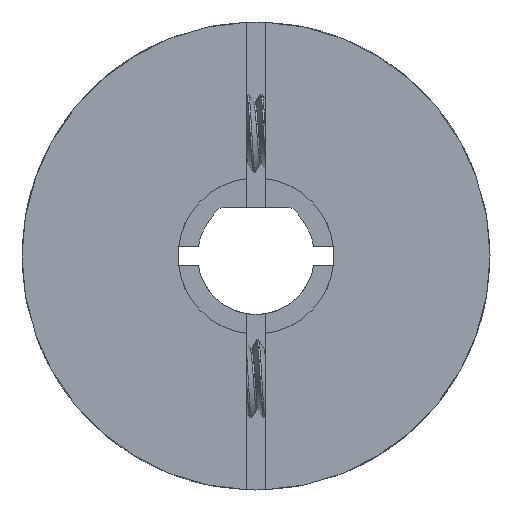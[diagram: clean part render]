
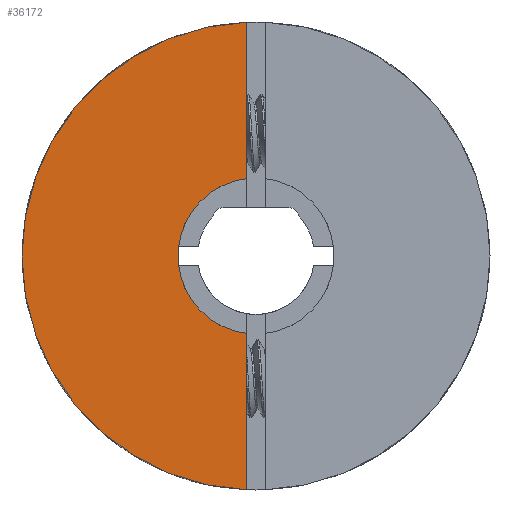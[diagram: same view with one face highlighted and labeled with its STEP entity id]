
A CAD part, front view. The second image highlights one B-rep face of the part: STEP entity #36172.
In plain terms, the highlighted planar face has unit normal (0, -1, 0).
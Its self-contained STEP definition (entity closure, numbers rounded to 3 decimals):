
#1388 = CARTESIAN_POINT ( 'NONE',  ( -0.5, -15.5, -3.969 ) ) ;
#1733 = ORIENTED_EDGE ( 'NONE', *, *, #21840, .F. ) ;
#3625 = ORIENTED_EDGE ( 'NONE', *, *, #18345, .F. ) ;
#3894 = VERTEX_POINT ( 'NONE', #23620 ) ;
#6251 = DIRECTION ( 'NONE',  ( 0., 0., -1. ) ) ;
#8245 = DIRECTION ( 'NONE',  ( 0., 0., -1. ) ) ;
#11146 = VERTEX_POINT ( 'NONE', #1388 ) ;
#11577 = LINE ( 'NONE', #35778, #43615 ) ;
#15775 = VECTOR ( 'NONE', #6251, 1000. ) ;
#16390 = DIRECTION ( 'NONE',  ( 0., 0., 1. ) ) ;
#17382 = CARTESIAN_POINT ( 'NONE',  ( -0.5, -15.5, -11.99 ) ) ;
#18345 = EDGE_CURVE ( 'NONE', #28155, #34963, #37546, .T. ) ;
#21194 = CIRCLE ( 'NONE', #45295, 4. ) ;
#21604 = AXIS2_PLACEMENT_3D ( 'NONE', #46626, #51102, #31431 ) ;
#21840 = EDGE_CURVE ( 'NONE', #34963, #3894, #11577, .T. ) ;
#23125 = LINE ( 'NONE', #29816, #15775 ) ;
#23518 = PLANE ( 'NONE',  #21604 ) ;
#23620 = CARTESIAN_POINT ( 'NONE',  ( -0.5, -15.5, 3.969 ) ) ;
#25974 = EDGE_CURVE ( 'NONE', #11146, #28155, #23125, .T. ) ;
#28155 = VERTEX_POINT ( 'NONE', #17382 ) ;
#28508 = FACE_OUTER_BOUND ( 'NONE', #40934, .T. ) ;
#29816 = CARTESIAN_POINT ( 'NONE',  ( -0.5, -15.5, -21.5 ) ) ;
#30465 = EDGE_CURVE ( 'NONE', #3894, #11146, #21194, .T. ) ;
#30715 = DIRECTION ( 'NONE',  ( 0., 0., -1. ) ) ;
#31431 = DIRECTION ( 'NONE',  ( 0., 0., 1. ) ) ;
#34963 = VERTEX_POINT ( 'NONE', #49686 ) ;
#35778 = CARTESIAN_POINT ( 'NONE',  ( -0.5, -15.5, -21.5 ) ) ;
#35820 = DIRECTION ( 'NONE',  ( 0., 1., 0. ) ) ;
#36172 = ADVANCED_FACE ( 'NONE', ( #28508 ), #23518, .F. ) ;
#36274 = ORIENTED_EDGE ( 'NONE', *, *, #25974, .F. ) ;
#36987 = AXIS2_PLACEMENT_3D ( 'NONE', #48253, #35820, #16390 ) ;
#36996 = ORIENTED_EDGE ( 'NONE', *, *, #30465, .F. ) ;
#37546 = CIRCLE ( 'NONE', #36987, 12. ) ;
#40934 = EDGE_LOOP ( 'NONE', ( #36274, #36996, #1733, #3625 ) ) ;
#43615 = VECTOR ( 'NONE', #8245, 1000. ) ;
#45295 = AXIS2_PLACEMENT_3D ( 'NONE', #50220, #50050, #30715 ) ;
#46626 = CARTESIAN_POINT ( 'NONE',  ( 0., -15.5, 0. ) ) ;
#48253 = CARTESIAN_POINT ( 'NONE',  ( 0., -15.5, 0. ) ) ;
#49686 = CARTESIAN_POINT ( 'NONE',  ( -0.5, -15.5, 11.99 ) ) ;
#50050 = DIRECTION ( 'NONE',  ( 0., -1., 0. ) ) ;
#50220 = CARTESIAN_POINT ( 'NONE',  ( 0., -15.5, 0. ) ) ;
#51102 = DIRECTION ( 'NONE',  ( 0., 1., 0. ) ) ;
